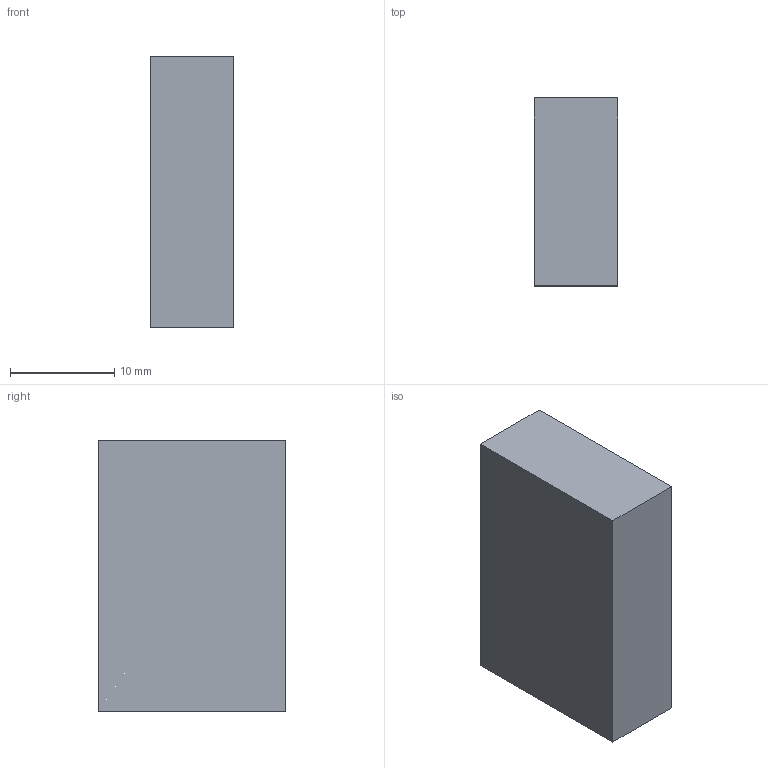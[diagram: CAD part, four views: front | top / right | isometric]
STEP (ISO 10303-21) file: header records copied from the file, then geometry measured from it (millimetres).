
FILE_DESCRIPTION(('Open CASCADE Model'),'2;1');
FILE_NAME('Open CASCADE Shape Model','2026-10-25T05:18:01',('Author'),( 'Open CASCADE'),'Open CASCADE STEP processor 7.9','Open CASCADE 7.9' ,'Unknown');
FILE_SCHEMA(('AUTOMOTIVE_DESIGN { 1 0 10303 214 1 1 1 1 }'));
Length unit declared in the file: millimetre
Products named in the file (1): Open CASCADE STEP translator 7.9 5
Bounding box: 8 x 18 x 26 mm (x, y, z)
Volume: 3744 mm3; surface area: 1640 mm2
Topology: 1 solids, 1 shells, 6 faces, 12 edges, 8 vertices
Faces by surface type: plane 6
Entity records: 322 total; most frequent: CARTESIAN_POINT 51, DIRECTION 50, LINE 36, VECTOR 36, ORIENTED_EDGE 24, PCURVE 24, DEFINITIONAL_REPRESENTATION 24, EDGE_CURVE 12
